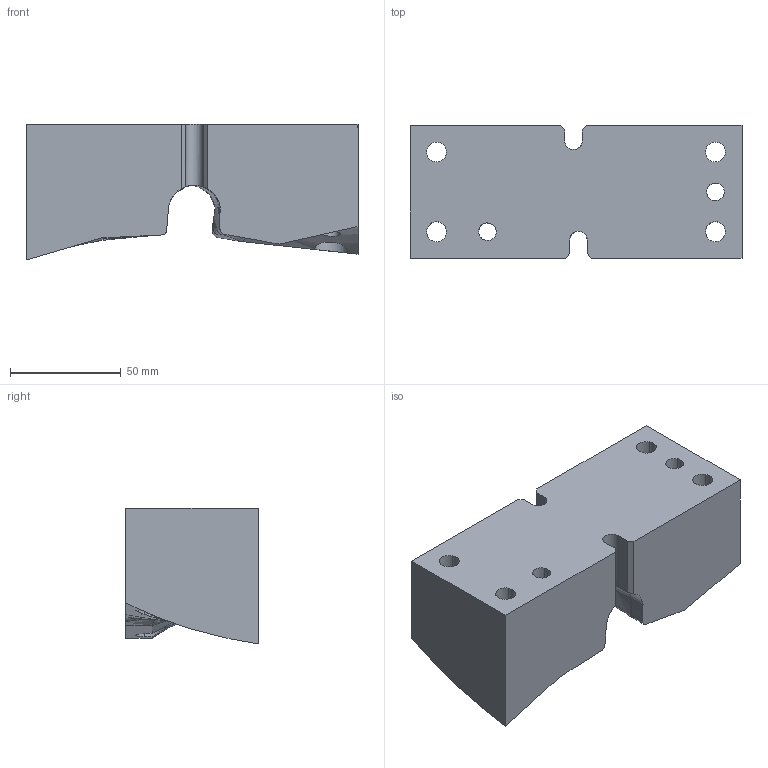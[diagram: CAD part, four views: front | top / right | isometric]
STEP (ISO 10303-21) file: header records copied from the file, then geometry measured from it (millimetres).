
FILE_DESCRIPTION(('CATIA V5 STEP Exchange','CAx-IF Rec.Pracs.--- Model Styling and Organization---1.5--- 2016-08-15','CAx-IF Rec.Pracs.---Supplemental Geometry---1.0---2011-11-01','CAx-IF Rec.Pracs.--- Composite Materials ---1.1---2010-07-15','CAx-IF Rec.Pracs.---External References---2.1---2005-01-19'),'2;1');
FILE_NAME('E:\WAT\Sprezarka\122_00_00_Tlocznik2\Tlocznik2_KPL\Tlocznik2_stp\122_01_01_Matryca.stp','2023-08-01T08:40:09+00:00',('none'),('none'),'CATIA Version 5-6 Release 2022 SP3','CATIA V5 STEP AP214 v2','none');
FILE_SCHEMA(('AUTOMOTIVE_DESIGN { 1 0 10303 214 1 1 1 1 }'));
Length unit declared in the file: millimetre
Products named in the file (1): 122_01_01_Matryca
Bounding box: 150 x 60 x 61.42 mm (x, y, z)
Volume: 397406.1 mm3; surface area: 51305.2 mm2
Topology: 1 solids, 1 shells, 108 faces, 313 edges, 206 vertices
Faces by surface type: bspline 52, cylinder 25, plane 24, extrusion 6, sphere 1
Entity records: 11229 total; most frequent: CARTESIAN_POINT 8839, ORIENTED_EDGE 618, EDGE_CURVE 309, B_SPLINE_CURVE_WITH_KNOTS 214, VERTEX_POINT 203, DIRECTION 179, EDGE_LOOP 120, ADVANCED_FACE 108
